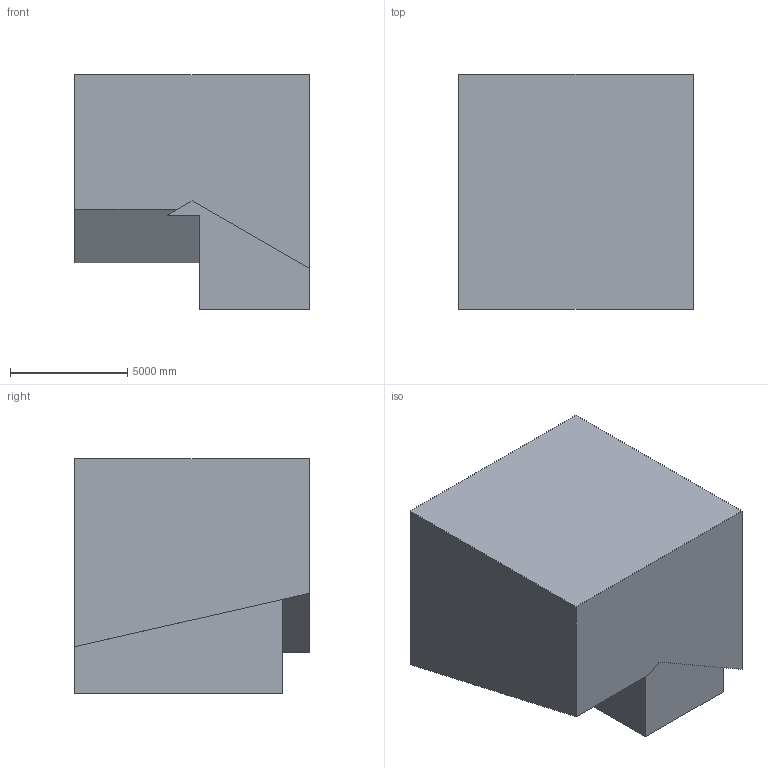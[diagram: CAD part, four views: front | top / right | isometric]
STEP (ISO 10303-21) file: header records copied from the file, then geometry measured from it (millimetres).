
FILE_DESCRIPTION (( 'STEP AP203' ), '1' );
FILE_NAME ('1112.STEP', '2022-08-18T12:48:32', ( 'user' ), ( '' ), 'SwSTEP 2.0', 'SolidWorks 2021', '' );
FILE_SCHEMA (( 'CONFIG_CONTROL_DESIGN' ));
Length unit declared in the file: centimetre
Products named in the file (1): 1112
Bounding box: 10000 x 10000 x 10000 mm (x, y, z)
Volume: 817227323193.3 mm3; surface area: 562799688.9 mm2
Topology: 1 solids, 1 shells, 11 faces, 27 edges, 18 vertices
Faces by surface type: plane 11
Entity records: 398 total; most frequent: CARTESIAN_POINT 57, ORIENTED_EDGE 54, DIRECTION 51, EDGE_CURVE 27, LINE 27, VECTOR 27, VERTEX_POINT 18, AXIS2_PLACEMENT_3D 12
